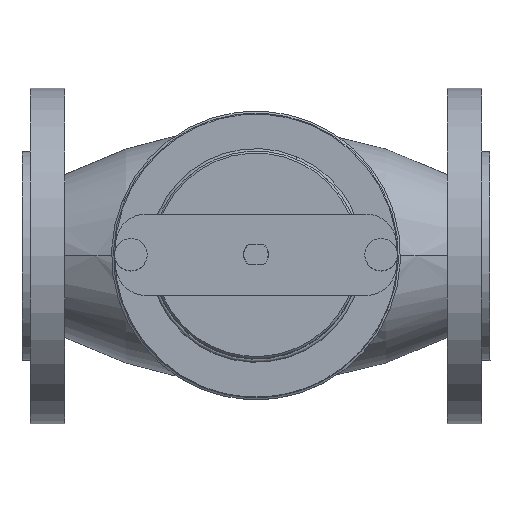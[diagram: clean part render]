
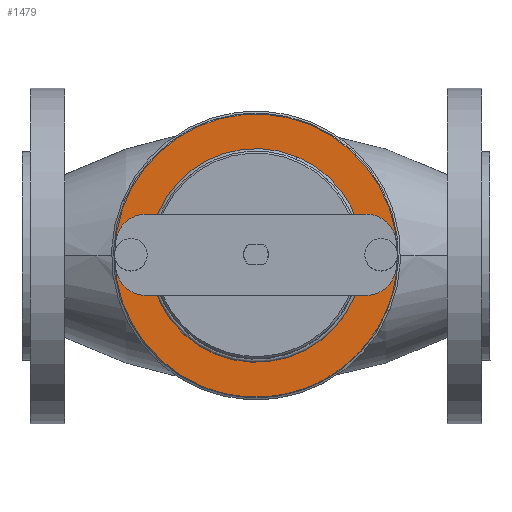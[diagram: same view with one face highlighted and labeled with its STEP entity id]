
A CAD part, top view. The second image highlights one B-rep face of the part: STEP entity #1479.
In plain terms, the highlighted planar face has unit normal (0, 0, 1).
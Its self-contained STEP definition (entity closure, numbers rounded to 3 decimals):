
#34 = ORIENTED_EDGE ( 'NONE', *, *, #50, .F. ) ;
#50 = EDGE_CURVE ( 'NONE', #1869, #7612, #13205, .T. ) ;
#92 = CARTESIAN_POINT ( 'NONE',  ( -132.5, 0., 127. ) ) ;
#96 = ORIENTED_EDGE ( 'NONE', *, *, #5438, .F. ) ;
#149 = CARTESIAN_POINT ( 'NONE',  ( -1.5, 8., 127. ) ) ;
#777 = AXIS2_PLACEMENT_3D ( 'NONE', #13139, #5940, #17778 ) ;
#797 = VERTEX_POINT ( 'NONE', #149 ) ;
#904 = DIRECTION ( 'NONE',  ( 0., 0., -1. ) ) ;
#1093 = CIRCLE ( 'NONE', #16886, 52.5 ) ;
#1205 = DIRECTION ( 'NONE',  ( 0., 1., 0. ) ) ;
#1267 = CARTESIAN_POINT ( 'NONE',  ( -1.5, 0., 127. ) ) ;
#1350 = DIRECTION ( 'NONE',  ( 0., 0., -1. ) ) ;
#1479 = ADVANCED_FACE ( 'NONE', ( #4166, #14659 ), #7368, .F. ) ;
#1493 = AXIS2_PLACEMENT_3D ( 'NONE', #2280, #9843, #1205 ) ;
#1709 = CIRCLE ( 'NONE', #16264, 69.5 ) ;
#1869 = VERTEX_POINT ( 'NONE', #12036 ) ;
#1891 = DIRECTION ( 'NONE',  ( -1., 0., 0. ) ) ;
#2094 = CIRCLE ( 'NONE', #4914, 8. ) ;
#2280 = CARTESIAN_POINT ( 'NONE',  ( -1.5, 0., 127. ) ) ;
#2328 = ORIENTED_EDGE ( 'NONE', *, *, #14159, .T. ) ;
#2368 = AXIS2_PLACEMENT_3D ( 'NONE', #16861, #8125, #2411 ) ;
#2396 = CIRCLE ( 'NONE', #13243, 8. ) ;
#2411 = DIRECTION ( 'NONE',  ( 0.383, 0.924, 0. ) ) ;
#2628 = CARTESIAN_POINT ( 'NONE',  ( -63., 0., 127. ) ) ;
#3136 = DIRECTION ( 'NONE',  ( 0., 0., -1. ) ) ;
#3318 = ORIENTED_EDGE ( 'NONE', *, *, #14709, .T. ) ;
#3516 = DIRECTION ( 'NONE',  ( 0., 1., 0. ) ) ;
#3728 = DIRECTION ( 'NONE',  ( 0.383, 0.924, 0. ) ) ;
#4076 = CARTESIAN_POINT ( 'NONE',  ( -1.5, -8., 127. ) ) ;
#4162 = ORIENTED_EDGE ( 'NONE', *, *, #18115, .T. ) ;
#4166 = FACE_BOUND ( 'NONE', #4770, .T. ) ;
#4420 = ORIENTED_EDGE ( 'NONE', *, *, #5279, .T. ) ;
#4479 = EDGE_CURVE ( 'NONE', #12306, #797, #6657, .T. ) ;
#4770 = EDGE_LOOP ( 'NONE', ( #4420, #4162 ) ) ;
#4829 = AXIS2_PLACEMENT_3D ( 'NONE', #1267, #5821, #11565 ) ;
#4914 = AXIS2_PLACEMENT_3D ( 'NONE', #12169, #10904, #3516 ) ;
#5279 = EDGE_CURVE ( 'NONE', #17636, #10659, #1093, .T. ) ;
#5438 = EDGE_CURVE ( 'NONE', #19030, #13680, #8538, .T. ) ;
#5457 = DIRECTION ( 'NONE',  ( -1., 0., 0. ) ) ;
#5523 = EDGE_CURVE ( 'NONE', #13680, #1869, #7299, .T. ) ;
#5812 = DIRECTION ( 'NONE',  ( 0., -1., 0. ) ) ;
#5821 = DIRECTION ( 'NONE',  ( 0., 0., -1. ) ) ;
#5918 = DIRECTION ( 'NONE',  ( 0., 0., -1. ) ) ;
#5940 = DIRECTION ( 'NONE',  ( 0., 0., -1. ) ) ;
#6161 = EDGE_LOOP ( 'NONE', ( #34, #2328, #16824, #16559, #14654, #96, #17557, #3318, #18670, #16568 ) ) ;
#6657 = CIRCLE ( 'NONE', #11939, 8. ) ;
#6667 = AXIS2_PLACEMENT_3D ( 'NONE', #14671, #5918, #18932 ) ;
#6773 = CARTESIAN_POINT ( 'NONE',  ( -63., 0., 127. ) ) ;
#7218 = EDGE_CURVE ( 'NONE', #12679, #19030, #9460, .T. ) ;
#7299 = CIRCLE ( 'NONE', #777, 69.5 ) ;
#7368 = PLANE ( 'NONE',  #15414 ) ;
#7370 = CIRCLE ( 'NONE', #1493, 8. ) ;
#7612 = VERTEX_POINT ( 'NONE', #10689 ) ;
#7853 = DIRECTION ( 'NONE',  ( 0.383, 0.924, 0. ) ) ;
#8125 = DIRECTION ( 'NONE',  ( 0., 0., -1. ) ) ;
#8538 = CIRCLE ( 'NONE', #9777, 69.5 ) ;
#9049 = CARTESIAN_POINT ( 'NONE',  ( -124.5, 8., 127. ) ) ;
#9269 = DIRECTION ( 'NONE',  ( 0., 0., -1. ) ) ;
#9460 = CIRCLE ( 'NONE', #6667, 8. ) ;
#9777 = AXIS2_PLACEMENT_3D ( 'NONE', #17023, #15669, #3728 ) ;
#9843 = DIRECTION ( 'NONE',  ( 0., 0., -1. ) ) ;
#10562 = CARTESIAN_POINT ( 'NONE',  ( -36.404, 64.21, 127. ) ) ;
#10659 = VERTEX_POINT ( 'NONE', #17462 ) ;
#10689 = CARTESIAN_POINT ( 'NONE',  ( -89.596, -64.21, 127. ) ) ;
#10720 = CARTESIAN_POINT ( 'NONE',  ( -63., 0., 127. ) ) ;
#10904 = DIRECTION ( 'NONE',  ( 0., 0., -1. ) ) ;
#11565 = DIRECTION ( 'NONE',  ( 0., 1., 0. ) ) ;
#11579 = AXIS2_PLACEMENT_3D ( 'NONE', #10720, #9269, #1891 ) ;
#11703 = VERTEX_POINT ( 'NONE', #9049 ) ;
#11836 = CARTESIAN_POINT ( 'NONE',  ( -124.5, -8., 127. ) ) ;
#11939 = AXIS2_PLACEMENT_3D ( 'NONE', #13156, #13445, #13548 ) ;
#12036 = CARTESIAN_POINT ( 'NONE',  ( 6.5, 0., 127. ) ) ;
#12169 = CARTESIAN_POINT ( 'NONE',  ( -124.5, 0., 127. ) ) ;
#12306 = VERTEX_POINT ( 'NONE', #4076 ) ;
#12679 = VERTEX_POINT ( 'NONE', #11836 ) ;
#12911 = EDGE_CURVE ( 'NONE', #7612, #19030, #1709, .T. ) ;
#13139 = CARTESIAN_POINT ( 'NONE',  ( -63., 0., 127. ) ) ;
#13156 = CARTESIAN_POINT ( 'NONE',  ( -1.5, 0., 127. ) ) ;
#13205 = CIRCLE ( 'NONE', #2368, 69.5 ) ;
#13243 = AXIS2_PLACEMENT_3D ( 'NONE', #14695, #3136, #13331 ) ;
#13331 = DIRECTION ( 'NONE',  ( 0., 1., 0. ) ) ;
#13445 = DIRECTION ( 'NONE',  ( 0., 0., -1. ) ) ;
#13548 = DIRECTION ( 'NONE',  ( 0., 1., 0. ) ) ;
#13680 = VERTEX_POINT ( 'NONE', #10562 ) ;
#14052 = DIRECTION ( 'NONE',  ( 0., 0., -1. ) ) ;
#14159 = EDGE_CURVE ( 'NONE', #1869, #12306, #7370, .T. ) ;
#14654 = ORIENTED_EDGE ( 'NONE', *, *, #5523, .F. ) ;
#14659 = FACE_OUTER_BOUND ( 'NONE', #6161, .T. ) ;
#14671 = CARTESIAN_POINT ( 'NONE',  ( -124.5, 0., 127. ) ) ;
#14695 = CARTESIAN_POINT ( 'NONE',  ( -124.5, 0., 127. ) ) ;
#14709 = EDGE_CURVE ( 'NONE', #11703, #12679, #2396, .T. ) ;
#14954 = EDGE_CURVE ( 'NONE', #19030, #11703, #2094, .T. ) ;
#14996 = CIRCLE ( 'NONE', #11579, 52.5 ) ;
#15414 = AXIS2_PLACEMENT_3D ( 'NONE', #2628, #1350, #5812 ) ;
#15669 = DIRECTION ( 'NONE',  ( 0., 0., -1. ) ) ;
#15788 = EDGE_CURVE ( 'NONE', #797, #1869, #17214, .T. ) ;
#16264 = AXIS2_PLACEMENT_3D ( 'NONE', #6773, #14052, #7853 ) ;
#16559 = ORIENTED_EDGE ( 'NONE', *, *, #15788, .T. ) ;
#16568 = ORIENTED_EDGE ( 'NONE', *, *, #12911, .F. ) ;
#16824 = ORIENTED_EDGE ( 'NONE', *, *, #4479, .T. ) ;
#16861 = CARTESIAN_POINT ( 'NONE',  ( -63., 0., 127. ) ) ;
#16886 = AXIS2_PLACEMENT_3D ( 'NONE', #18565, #904, #5457 ) ;
#17023 = CARTESIAN_POINT ( 'NONE',  ( -63., 0., 127. ) ) ;
#17214 = CIRCLE ( 'NONE', #4829, 8. ) ;
#17462 = CARTESIAN_POINT ( 'NONE',  ( -42.909, 48.504, 127. ) ) ;
#17503 = CARTESIAN_POINT ( 'NONE',  ( -83.091, -48.504, 127. ) ) ;
#17557 = ORIENTED_EDGE ( 'NONE', *, *, #14954, .T. ) ;
#17636 = VERTEX_POINT ( 'NONE', #17503 ) ;
#17778 = DIRECTION ( 'NONE',  ( 0.383, 0.924, 0. ) ) ;
#18115 = EDGE_CURVE ( 'NONE', #10659, #17636, #14996, .T. ) ;
#18565 = CARTESIAN_POINT ( 'NONE',  ( -63., 0., 127. ) ) ;
#18670 = ORIENTED_EDGE ( 'NONE', *, *, #7218, .T. ) ;
#18932 = DIRECTION ( 'NONE',  ( 0., 1., 0. ) ) ;
#19030 = VERTEX_POINT ( 'NONE', #92 ) ;
